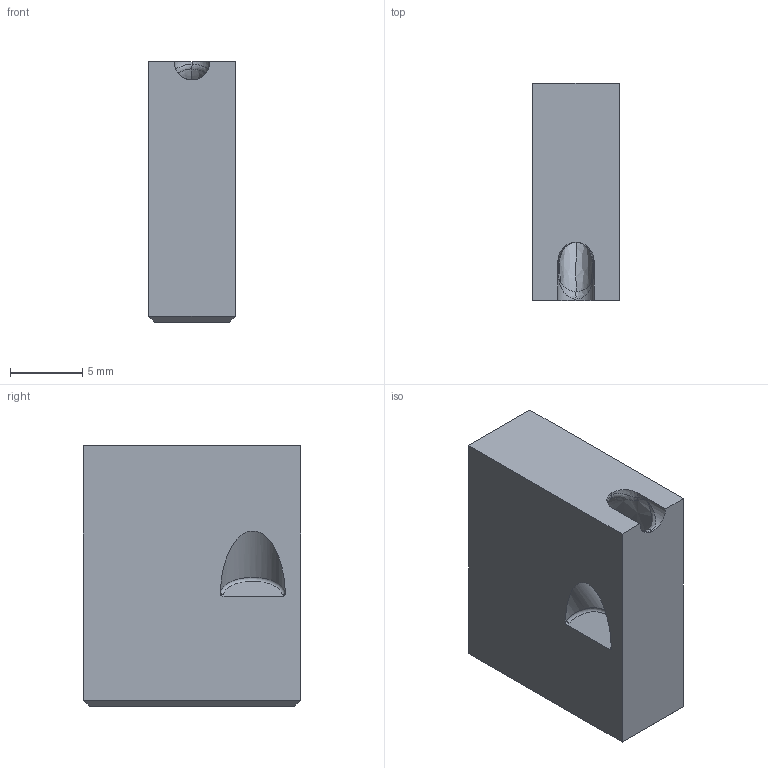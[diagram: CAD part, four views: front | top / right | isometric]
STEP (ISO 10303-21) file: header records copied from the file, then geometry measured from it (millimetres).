
FILE_DESCRIPTION((''),'2;1');
FILE_NAME('SGC-S','2007-11-26T',('tmeister'),(''),'PRO/ENGINEER BY PARAMETRIC TECHNOLOGY CORPORATION, 2002390','PRO/ENGINEER BY PARAMETRIC TECHNOLOGY CORPORATION, 2002390','');
FILE_SCHEMA(('CONFIG_CONTROL_DESIGN'));
Length unit declared in the file: millimetre
Products named in the file (1): SGC-S
Bounding box: 6 x 15 x 18 mm (x, y, z)
Volume: 1452.8 mm3; surface area: 1228 mm2
Topology: 1 solids, 2 shells, 52 faces, 143 edges, 103 vertices
Faces by surface type: plane 17, cylinder 13, bspline 12, cone 4, sphere 4, torus 2
Entity records: 3048 total; most frequent: CARTESIAN_POINT 1806, ORIENTED_EDGE 228, DIRECTION 226, EDGE_CURVE 116, AXIS2_PLACEMENT_3D 77, VECTOR 72, LINE 72, VERTEX_POINT 70
